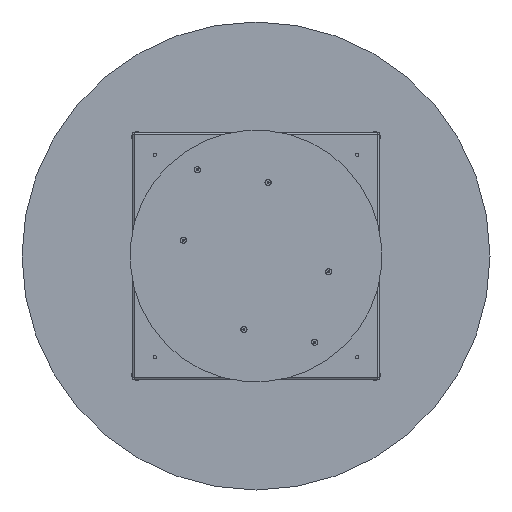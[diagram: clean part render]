
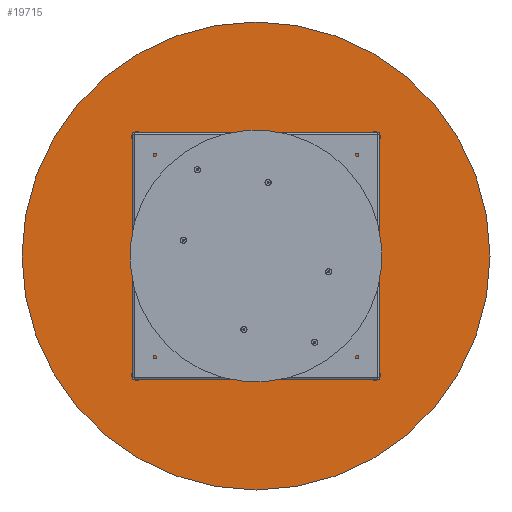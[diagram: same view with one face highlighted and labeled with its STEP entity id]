
A CAD part, front view. The second image highlights one B-rep face of the part: STEP entity #19715.
In plain terms, the highlighted planar face has unit normal (0, -1, 0).
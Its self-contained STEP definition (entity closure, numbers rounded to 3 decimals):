
#404 = VERTEX_POINT ( 'NONE', #8685 ) ;
#588 = CARTESIAN_POINT ( 'NONE',  ( 0., 0., 0. ) ) ;
#685 = DIRECTION ( 'NONE',  ( 0., -1., 0. ) ) ;
#1766 = CARTESIAN_POINT ( 'NONE',  ( 0., 0., 650. ) ) ;
#1949 = AXIS2_PLACEMENT_3D ( 'NONE', #588, #19444, #7520 ) ;
#2404 = FACE_OUTER_BOUND ( 'NONE', #14816, .T. ) ;
#2829 = CARTESIAN_POINT ( 'NONE',  ( 0., 0., 0. ) ) ;
#4722 = EDGE_CURVE ( 'NONE', #404, #14113, #13515, .T. ) ;
#6358 = DIRECTION ( 'NONE',  ( 0., 0., -1. ) ) ;
#7520 = DIRECTION ( 'NONE',  ( 0., 0., -1. ) ) ;
#7632 = DIRECTION ( 'NONE',  ( 0., 0., -1. ) ) ;
#8685 = CARTESIAN_POINT ( 'NONE',  ( 0., 0., -650. ) ) ;
#9356 = PLANE ( 'NONE',  #9465 ) ;
#9465 = AXIS2_PLACEMENT_3D ( 'NONE', #16333, #685, #7632 ) ;
#12800 = EDGE_CURVE ( 'NONE', #14113, #404, #17281, .T. ) ;
#13515 = CIRCLE ( 'NONE', #19738, 650. ) ;
#14113 = VERTEX_POINT ( 'NONE', #1766 ) ;
#14816 = EDGE_LOOP ( 'NONE', ( #17166, #14937 ) ) ;
#14937 = ORIENTED_EDGE ( 'NONE', *, *, #12800, .T. ) ;
#15062 = DIRECTION ( 'NONE',  ( 0., -1., 0. ) ) ;
#16333 = CARTESIAN_POINT ( 'NONE',  ( 0., 0., 0. ) ) ;
#17166 = ORIENTED_EDGE ( 'NONE', *, *, #4722, .T. ) ;
#17281 = CIRCLE ( 'NONE', #1949, 650. ) ;
#19444 = DIRECTION ( 'NONE',  ( 0., -1., 0. ) ) ;
#19715 = ADVANCED_FACE ( 'NONE', ( #2404 ), #9356, .T. ) ;
#19738 = AXIS2_PLACEMENT_3D ( 'NONE', #2829, #15062, #6358 ) ;
